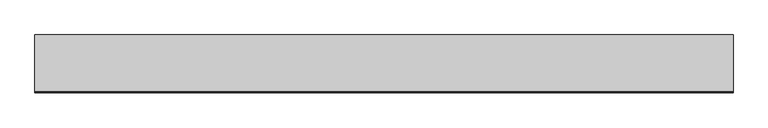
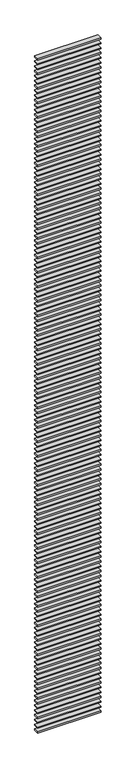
"""IFC4 building model written with IfcOpenShell, lengths in millimetres: proxy geometry, 水平ルーバー（Ｌ型） : ｈ50ｄ200＠200."""

from ifc_helpers import new_model, si_unit, frame, origin, place, context, project, spatial, polyline, outline, extrude, source, transform, mapped, element, save


def generic_models_84017759(model_context):
    return source(origin(), model_context, "Body", "SweptSolid", [
        extrude(outline(polyline([(-100.0, -200.0), (-100.0, 0.0), (2375.0, 0.0), (2375.0, -200.0), (-100.0, -200.0)])), frame((0.0, 0.0, 27775.0), z_axis=(0.0, 0.0, 1.0), x_axis=(1.0, 0.0, 0.0)), (0.0, 0.0, 1.0), 50.0),
        extrude(outline(polyline([(-100.0, -200.0), (-100.0, 0.0), (2375.0, 0.0), (2375.0, -200.0), (-100.0, -200.0)])), frame((0.0, 0.0, 27575.0), z_axis=(0.0, 0.0, 1.0), x_axis=(1.0, 0.0, 0.0)), (0.0, 0.0, 1.0), 50.0),
        extrude(outline(polyline([(-100.0, -200.0), (-100.0, 0.0), (2375.0, 0.0), (2375.0, -200.0), (-100.0, -200.0)])), frame((0.0, 0.0, 27375.0), z_axis=(0.0, 0.0, 1.0), x_axis=(1.0, 0.0, 0.0)), (0.0, 0.0, 1.0), 50.0),
        extrude(outline(polyline([(-100.0, -200.0), (-100.0, 0.0), (2375.0, 0.0), (2375.0, -200.0), (-100.0, -200.0)])), frame((0.0, 0.0, 27175.0), z_axis=(0.0, 0.0, 1.0), x_axis=(1.0, 0.0, 0.0)), (0.0, 0.0, 1.0), 50.0),
        extrude(outline(polyline([(-100.0, -200.0), (-100.0, 0.0), (2375.0, 0.0), (2375.0, -200.0), (-100.0, -200.0)])), frame((0.0, 0.0, 26975.0), z_axis=(0.0, 0.0, 1.0), x_axis=(1.0, 0.0, 0.0)), (0.0, 0.0, 1.0), 50.0),
        extrude(outline(polyline([(-100.0, -200.0), (-100.0, 0.0), (2375.0, 0.0), (2375.0, -200.0), (-100.0, -200.0)])), frame((0.0, 0.0, 26775.0), z_axis=(0.0, 0.0, 1.0), x_axis=(1.0, 0.0, 0.0)), (0.0, 0.0, 1.0), 50.0),
        extrude(outline(polyline([(-100.0, -200.0), (-100.0, 0.0), (2375.0, 0.0), (2375.0, -200.0), (-100.0, -200.0)])), frame((0.0, 0.0, 26575.0), z_axis=(0.0, 0.0, 1.0), x_axis=(1.0, 0.0, 0.0)), (0.0, 0.0, 1.0), 50.0),
        extrude(outline(polyline([(-100.0, -200.0), (-100.0, 0.0), (2375.0, 0.0), (2375.0, -200.0), (-100.0, -200.0)])), frame((0.0, 0.0, 26375.0), z_axis=(0.0, 0.0, 1.0), x_axis=(1.0, 0.0, 0.0)), (0.0, 0.0, 1.0), 50.0),
        extrude(outline(polyline([(-100.0, -200.0), (-100.0, 0.0), (2375.0, 0.0), (2375.0, -200.0), (-100.0, -200.0)])), frame((0.0, 0.0, 26175.0), z_axis=(0.0, 0.0, 1.0), x_axis=(1.0, 0.0, 0.0)), (0.0, 0.0, 1.0), 50.0),
        extrude(outline(polyline([(-100.0, -200.0), (-100.0, 0.0), (2375.0, 0.0), (2375.0, -200.0), (-100.0, -200.0)])), frame((0.0, 0.0, 25975.0), z_axis=(0.0, 0.0, 1.0), x_axis=(1.0, 0.0, 0.0)), (0.0, 0.0, 1.0), 50.0),
        extrude(outline(polyline([(-100.0, -200.0), (-100.0, 0.0), (2375.0, 0.0), (2375.0, -200.0), (-100.0, -200.0)])), frame((0.0, 0.0, 25775.0), z_axis=(0.0, 0.0, 1.0), x_axis=(1.0, 0.0, 0.0)), (0.0, 0.0, 1.0), 50.0),
        extrude(outline(polyline([(-100.0, -200.0), (-100.0, 0.0), (2375.0, 0.0), (2375.0, -200.0), (-100.0, -200.0)])), frame((0.0, 0.0, 25575.0), z_axis=(0.0, 0.0, 1.0), x_axis=(1.0, 0.0, 0.0)), (0.0, 0.0, 1.0), 50.0),
        extrude(outline(polyline([(-100.0, -200.0), (-100.0, 0.0), (2375.0, 0.0), (2375.0, -200.0), (-100.0, -200.0)])), frame((0.0, 0.0, 25375.0), z_axis=(0.0, 0.0, 1.0), x_axis=(1.0, 0.0, 0.0)), (0.0, 0.0, 1.0), 50.0),
        extrude(outline(polyline([(-100.0, -200.0), (-100.0, 0.0), (2375.0, 0.0), (2375.0, -200.0), (-100.0, -200.0)])), frame((0.0, 0.0, 25175.0), z_axis=(0.0, 0.0, 1.0), x_axis=(1.0, 0.0, 0.0)), (0.0, 0.0, 1.0), 50.0),
        extrude(outline(polyline([(-100.0, -200.0), (-100.0, 0.0), (2375.0, 0.0), (2375.0, -200.0), (-100.0, -200.0)])), frame((0.0, 0.0, 24975.0), z_axis=(0.0, 0.0, 1.0), x_axis=(1.0, 0.0, 0.0)), (0.0, 0.0, 1.0), 50.0),
        extrude(outline(polyline([(-100.0, -200.0), (-100.0, 0.0), (2375.0, 0.0), (2375.0, -200.0), (-100.0, -200.0)])), frame((0.0, 0.0, 24775.0), z_axis=(0.0, 0.0, 1.0), x_axis=(1.0, 0.0, 0.0)), (0.0, 0.0, 1.0), 50.0),
        extrude(outline(polyline([(-100.0, -200.0), (-100.0, 0.0), (2375.0, 0.0), (2375.0, -200.0), (-100.0, -200.0)])), frame((0.0, 0.0, 24575.0), z_axis=(0.0, 0.0, 1.0), x_axis=(1.0, 0.0, 0.0)), (0.0, 0.0, 1.0), 50.0),
        extrude(outline(polyline([(-100.0, -200.0), (-100.0, 0.0), (2375.0, 0.0), (2375.0, -200.0), (-100.0, -200.0)])), frame((0.0, 0.0, 24375.0), z_axis=(0.0, 0.0, 1.0), x_axis=(1.0, 0.0, 0.0)), (0.0, 0.0, 1.0), 50.0),
        extrude(outline(polyline([(-100.0, -200.0), (-100.0, 0.0), (2375.0, 0.0), (2375.0, -200.0), (-100.0, -200.0)])), frame((0.0, 0.0, 24175.0), z_axis=(0.0, 0.0, 1.0), x_axis=(1.0, 0.0, 0.0)), (0.0, 0.0, 1.0), 50.0),
        extrude(outline(polyline([(-100.0, -200.0), (-100.0, 0.0), (2375.0, 0.0), (2375.0, -200.0), (-100.0, -200.0)])), frame((0.0, 0.0, 23975.0), z_axis=(0.0, 0.0, 1.0), x_axis=(1.0, 0.0, 0.0)), (0.0, 0.0, 1.0), 50.0),
        extrude(outline(polyline([(-100.0, -200.0), (-100.0, 0.0), (2375.0, 0.0), (2375.0, -200.0), (-100.0, -200.0)])), frame((0.0, 0.0, 23775.0), z_axis=(0.0, 0.0, 1.0), x_axis=(1.0, 0.0, 0.0)), (0.0, 0.0, 1.0), 50.0),
        extrude(outline(polyline([(-100.0, -200.0), (-100.0, 0.0), (2375.0, 0.0), (2375.0, -200.0), (-100.0, -200.0)])), frame((0.0, 0.0, 23575.0), z_axis=(0.0, 0.0, 1.0), x_axis=(1.0, 0.0, 0.0)), (0.0, 0.0, 1.0), 50.0),
        extrude(outline(polyline([(-100.0, -200.0), (-100.0, 0.0), (2375.0, 0.0), (2375.0, -200.0), (-100.0, -200.0)])), frame((0.0, 0.0, 23375.0), z_axis=(0.0, 0.0, 1.0), x_axis=(1.0, 0.0, 0.0)), (0.0, 0.0, 1.0), 50.0),
        extrude(outline(polyline([(-100.0, -200.0), (-100.0, 0.0), (2375.0, 0.0), (2375.0, -200.0), (-100.0, -200.0)])), frame((0.0, 0.0, 23175.0), z_axis=(0.0, 0.0, 1.0), x_axis=(1.0, 0.0, 0.0)), (0.0, 0.0, 1.0), 50.0),
        extrude(outline(polyline([(-100.0, -200.0), (-100.0, 0.0), (2375.0, 0.0), (2375.0, -200.0), (-100.0, -200.0)])), frame((0.0, 0.0, 22975.0), z_axis=(0.0, 0.0, 1.0), x_axis=(1.0, 0.0, 0.0)), (0.0, 0.0, 1.0), 50.0),
        extrude(outline(polyline([(-100.0, -200.0), (-100.0, 0.0), (2375.0, 0.0), (2375.0, -200.0), (-100.0, -200.0)])), frame((0.0, 0.0, 22775.0), z_axis=(0.0, 0.0, 1.0), x_axis=(1.0, 0.0, 0.0)), (0.0, 0.0, 1.0), 50.0),
        extrude(outline(polyline([(-100.0, -200.0), (-100.0, 0.0), (2375.0, 0.0), (2375.0, -200.0), (-100.0, -200.0)])), frame((0.0, 0.0, 22575.0), z_axis=(0.0, 0.0, 1.0), x_axis=(1.0, 0.0, 0.0)), (0.0, 0.0, 1.0), 50.0),
        extrude(outline(polyline([(-100.0, -200.0), (-100.0, 0.0), (2375.0, 0.0), (2375.0, -200.0), (-100.0, -200.0)])), frame((0.0, 0.0, 22375.0), z_axis=(0.0, 0.0, 1.0), x_axis=(1.0, 0.0, 0.0)), (0.0, 0.0, 1.0), 50.0),
        extrude(outline(polyline([(-100.0, -200.0), (-100.0, 0.0), (2375.0, 0.0), (2375.0, -200.0), (-100.0, -200.0)])), frame((0.0, 0.0, 22175.0), z_axis=(0.0, 0.0, 1.0), x_axis=(1.0, 0.0, 0.0)), (0.0, 0.0, 1.0), 50.0),
        extrude(outline(polyline([(-100.0, -200.0), (-100.0, 0.0), (2375.0, 0.0), (2375.0, -200.0), (-100.0, -200.0)])), frame((0.0, 0.0, 21975.0), z_axis=(0.0, 0.0, 1.0), x_axis=(1.0, 0.0, 0.0)), (0.0, 0.0, 1.0), 50.0),
        extrude(outline(polyline([(-100.0, -200.0), (-100.0, 0.0), (2375.0, 0.0), (2375.0, -200.0), (-100.0, -200.0)])), frame((0.0, 0.0, 21775.0), z_axis=(0.0, 0.0, 1.0), x_axis=(1.0, 0.0, 0.0)), (0.0, 0.0, 1.0), 50.0),
        extrude(outline(polyline([(-100.0, -200.0), (-100.0, 0.0), (2375.0, 0.0), (2375.0, -200.0), (-100.0, -200.0)])), frame((0.0, 0.0, 21575.0), z_axis=(0.0, 0.0, 1.0), x_axis=(1.0, 0.0, 0.0)), (0.0, 0.0, 1.0), 50.0),
        extrude(outline(polyline([(-100.0, -200.0), (-100.0, 0.0), (2375.0, 0.0), (2375.0, -200.0), (-100.0, -200.0)])), frame((0.0, 0.0, 21375.0), z_axis=(0.0, 0.0, 1.0), x_axis=(1.0, 0.0, 0.0)), (0.0, 0.0, 1.0), 50.0),
        extrude(outline(polyline([(-100.0, -200.0), (-100.0, 0.0), (2375.0, 0.0), (2375.0, -200.0), (-100.0, -200.0)])), frame((0.0, 0.0, 21175.0), z_axis=(0.0, 0.0, 1.0), x_axis=(1.0, 0.0, 0.0)), (0.0, 0.0, 1.0), 50.0),
        extrude(outline(polyline([(-100.0, -200.0), (-100.0, 0.0), (2375.0, 0.0), (2375.0, -200.0), (-100.0, -200.0)])), frame((0.0, 0.0, 20975.0), z_axis=(0.0, 0.0, 1.0), x_axis=(1.0, 0.0, 0.0)), (0.0, 0.0, 1.0), 50.0),
        extrude(outline(polyline([(-100.0, -200.0), (-100.0, 0.0), (2375.0, 0.0), (2375.0, -200.0), (-100.0, -200.0)])), frame((0.0, 0.0, 20775.0), z_axis=(0.0, 0.0, 1.0), x_axis=(1.0, 0.0, 0.0)), (0.0, 0.0, 1.0), 50.0),
        extrude(outline(polyline([(-100.0, -200.0), (-100.0, 0.0), (2375.0, 0.0), (2375.0, -200.0), (-100.0, -200.0)])), frame((0.0, 0.0, 20575.0), z_axis=(0.0, 0.0, 1.0), x_axis=(1.0, 0.0, 0.0)), (0.0, 0.0, 1.0), 50.0),
        extrude(outline(polyline([(-100.0, -200.0), (-100.0, 0.0), (2375.0, 0.0), (2375.0, -200.0), (-100.0, -200.0)])), frame((0.0, 0.0, 20375.0), z_axis=(0.0, 0.0, 1.0), x_axis=(1.0, 0.0, 0.0)), (0.0, 0.0, 1.0), 50.0),
        extrude(outline(polyline([(-100.0, -200.0), (-100.0, 0.0), (2375.0, 0.0), (2375.0, -200.0), (-100.0, -200.0)])), frame((0.0, 0.0, 20175.0), z_axis=(0.0, 0.0, 1.0), x_axis=(1.0, 0.0, 0.0)), (0.0, 0.0, 1.0), 50.0),
        extrude(outline(polyline([(-100.0, -200.0), (-100.0, 0.0), (2375.0, 0.0), (2375.0, -200.0), (-100.0, -200.0)])), frame((0.0, 0.0, 19975.0), z_axis=(0.0, 0.0, 1.0), x_axis=(1.0, 0.0, 0.0)), (0.0, 0.0, 1.0), 50.0),
        extrude(outline(polyline([(-100.0, -200.0), (-100.0, 0.0), (2375.0, 0.0), (2375.0, -200.0), (-100.0, -200.0)])), frame((0.0, 0.0, 19775.0), z_axis=(0.0, 0.0, 1.0), x_axis=(1.0, 0.0, 0.0)), (0.0, 0.0, 1.0), 50.0),
        extrude(outline(polyline([(-100.0, -200.0), (-100.0, 0.0), (2375.0, 0.0), (2375.0, -200.0), (-100.0, -200.0)])), frame((0.0, 0.0, 19575.0), z_axis=(0.0, 0.0, 1.0), x_axis=(1.0, 0.0, 0.0)), (0.0, 0.0, 1.0), 50.0),
        extrude(outline(polyline([(-100.0, -200.0), (-100.0, 0.0), (2375.0, 0.0), (2375.0, -200.0), (-100.0, -200.0)])), frame((0.0, 0.0, 19375.0), z_axis=(0.0, 0.0, 1.0), x_axis=(1.0, 0.0, 0.0)), (0.0, 0.0, 1.0), 50.0),
        extrude(outline(polyline([(-100.0, -200.0), (-100.0, 0.0), (2375.0, 0.0), (2375.0, -200.0), (-100.0, -200.0)])), frame((0.0, 0.0, 19175.0), z_axis=(0.0, 0.0, 1.0), x_axis=(1.0, 0.0, 0.0)), (0.0, 0.0, 1.0), 50.0),
        extrude(outline(polyline([(-100.0, -200.0), (-100.0, 0.0), (2375.0, 0.0), (2375.0, -200.0), (-100.0, -200.0)])), frame((0.0, 0.0, 18975.0), z_axis=(0.0, 0.0, 1.0), x_axis=(1.0, 0.0, 0.0)), (0.0, 0.0, 1.0), 50.0),
        extrude(outline(polyline([(-100.0, -200.0), (-100.0, 0.0), (2375.0, 0.0), (2375.0, -200.0), (-100.0, -200.0)])), frame((0.0, 0.0, 18775.0), z_axis=(0.0, 0.0, 1.0), x_axis=(1.0, 0.0, 0.0)), (0.0, 0.0, 1.0), 50.0),
        extrude(outline(polyline([(-100.0, -200.0), (-100.0, 0.0), (2375.0, 0.0), (2375.0, -200.0), (-100.0, -200.0)])), frame((0.0, 0.0, 18575.0), z_axis=(0.0, 0.0, 1.0), x_axis=(1.0, 0.0, 0.0)), (0.0, 0.0, 1.0), 50.0),
        extrude(outline(polyline([(-100.0, -200.0), (-100.0, 0.0), (2375.0, 0.0), (2375.0, -200.0), (-100.0, -200.0)])), frame((0.0, 0.0, 18375.0), z_axis=(0.0, 0.0, 1.0), x_axis=(1.0, 0.0, 0.0)), (0.0, 0.0, 1.0), 50.0),
        extrude(outline(polyline([(-100.0, -200.0), (-100.0, 0.0), (2375.0, 0.0), (2375.0, -200.0), (-100.0, -200.0)])), frame((0.0, 0.0, 18175.0), z_axis=(0.0, 0.0, 1.0), x_axis=(1.0, 0.0, 0.0)), (0.0, 0.0, 1.0), 50.0),
        extrude(outline(polyline([(-100.0, -200.0), (-100.0, 0.0), (2375.0, 0.0), (2375.0, -200.0), (-100.0, -200.0)])), frame((0.0, 0.0, 17975.0), z_axis=(0.0, 0.0, 1.0), x_axis=(1.0, 0.0, 0.0)), (0.0, 0.0, 1.0), 50.0),
        extrude(outline(polyline([(-100.0, -200.0), (-100.0, 0.0), (2375.0, 0.0), (2375.0, -200.0), (-100.0, -200.0)])), frame((0.0, 0.0, 17775.0), z_axis=(0.0, 0.0, 1.0), x_axis=(1.0, 0.0, 0.0)), (0.0, 0.0, 1.0), 50.0),
        extrude(outline(polyline([(-100.0, -200.0), (-100.0, 0.0), (2375.0, 0.0), (2375.0, -200.0), (-100.0, -200.0)])), frame((0.0, 0.0, 17575.0), z_axis=(0.0, 0.0, 1.0), x_axis=(1.0, 0.0, 0.0)), (0.0, 0.0, 1.0), 50.0),
        extrude(outline(polyline([(-100.0, -200.0), (-100.0, 0.0), (2375.0, 0.0), (2375.0, -200.0), (-100.0, -200.0)])), frame((0.0, 0.0, 17375.0), z_axis=(0.0, 0.0, 1.0), x_axis=(1.0, 0.0, 0.0)), (0.0, 0.0, 1.0), 50.0),
        extrude(outline(polyline([(-100.0, -200.0), (-100.0, 0.0), (2375.0, 0.0), (2375.0, -200.0), (-100.0, -200.0)])), frame((0.0, 0.0, 17175.0), z_axis=(0.0, 0.0, 1.0), x_axis=(1.0, 0.0, 0.0)), (0.0, 0.0, 1.0), 50.0),
        extrude(outline(polyline([(-100.0, -200.0), (-100.0, 0.0), (2375.0, 0.0), (2375.0, -200.0), (-100.0, -200.0)])), frame((0.0, 0.0, 16975.0), z_axis=(0.0, 0.0, 1.0), x_axis=(1.0, 0.0, 0.0)), (0.0, 0.0, 1.0), 50.0),
        extrude(outline(polyline([(-100.0, -200.0), (-100.0, 0.0), (2375.0, 0.0), (2375.0, -200.0), (-100.0, -200.0)])), frame((0.0, 0.0, 16775.0), z_axis=(0.0, 0.0, 1.0), x_axis=(1.0, 0.0, 0.0)), (0.0, 0.0, 1.0), 50.0),
        extrude(outline(polyline([(-100.0, -200.0), (-100.0, 0.0), (2375.0, 0.0), (2375.0, -200.0), (-100.0, -200.0)])), frame((0.0, 0.0, 16575.0), z_axis=(0.0, 0.0, 1.0), x_axis=(1.0, 0.0, 0.0)), (0.0, 0.0, 1.0), 50.0),
        extrude(outline(polyline([(-100.0, -200.0), (-100.0, 0.0), (2375.0, 0.0), (2375.0, -200.0), (-100.0, -200.0)])), frame((0.0, 0.0, 16375.0), z_axis=(0.0, 0.0, 1.0), x_axis=(1.0, 0.0, 0.0)), (0.0, 0.0, 1.0), 50.0),
        extrude(outline(polyline([(-100.0, -200.0), (-100.0, 0.0), (2375.0, 0.0), (2375.0, -200.0), (-100.0, -200.0)])), frame((0.0, 0.0, 16175.0), z_axis=(0.0, 0.0, 1.0), x_axis=(1.0, 0.0, 0.0)), (0.0, 0.0, 1.0), 50.0),
        extrude(outline(polyline([(-100.0, -200.0), (-100.0, 0.0), (2375.0, 0.0), (2375.0, -200.0), (-100.0, -200.0)])), frame((0.0, 0.0, 15975.0), z_axis=(0.0, 0.0, 1.0), x_axis=(1.0, 0.0, 0.0)), (0.0, 0.0, 1.0), 50.0),
        extrude(outline(polyline([(-100.0, -200.0), (-100.0, 0.0), (2375.0, 0.0), (2375.0, -200.0), (-100.0, -200.0)])), frame((0.0, 0.0, 15775.0), z_axis=(0.0, 0.0, 1.0), x_axis=(1.0, 0.0, 0.0)), (0.0, 0.0, 1.0), 50.0),
        extrude(outline(polyline([(-100.0, -200.0), (-100.0, 0.0), (2375.0, 0.0), (2375.0, -200.0), (-100.0, -200.0)])), frame((0.0, 0.0, 15575.0), z_axis=(0.0, 0.0, 1.0), x_axis=(1.0, 0.0, 0.0)), (0.0, 0.0, 1.0), 50.0),
        extrude(outline(polyline([(-100.0, -200.0), (-100.0, 0.0), (2375.0, 0.0), (2375.0, -200.0), (-100.0, -200.0)])), frame((0.0, 0.0, 15375.0), z_axis=(0.0, 0.0, 1.0), x_axis=(1.0, 0.0, 0.0)), (0.0, 0.0, 1.0), 50.0),
        extrude(outline(polyline([(-100.0, -200.0), (-100.0, 0.0), (2375.0, 0.0), (2375.0, -200.0), (-100.0, -200.0)])), frame((0.0, 0.0, 15175.0), z_axis=(0.0, 0.0, 1.0), x_axis=(1.0, 0.0, 0.0)), (0.0, 0.0, 1.0), 50.0),
        extrude(outline(polyline([(-100.0, -200.0), (-100.0, 0.0), (2375.0, 0.0), (2375.0, -200.0), (-100.0, -200.0)])), frame((0.0, 0.0, 14975.0), z_axis=(0.0, 0.0, 1.0), x_axis=(1.0, 0.0, 0.0)), (0.0, 0.0, 1.0), 50.0),
        extrude(outline(polyline([(-100.0, -200.0), (-100.0, 0.0), (2375.0, 0.0), (2375.0, -200.0), (-100.0, -200.0)])), frame((0.0, 0.0, 14775.0), z_axis=(0.0, 0.0, 1.0), x_axis=(1.0, 0.0, 0.0)), (0.0, 0.0, 1.0), 50.0),
        extrude(outline(polyline([(-100.0, -200.0), (-100.0, 0.0), (2375.0, 0.0), (2375.0, -200.0), (-100.0, -200.0)])), frame((0.0, 0.0, 14575.0), z_axis=(0.0, 0.0, 1.0), x_axis=(1.0, 0.0, 0.0)), (0.0, 0.0, 1.0), 50.0),
        extrude(outline(polyline([(-100.0, -200.0), (-100.0, 0.0), (2375.0, 0.0), (2375.0, -200.0), (-100.0, -200.0)])), frame((0.0, 0.0, 14375.0), z_axis=(0.0, 0.0, 1.0), x_axis=(1.0, 0.0, 0.0)), (0.0, 0.0, 1.0), 50.0),
        extrude(outline(polyline([(-100.0, -200.0), (-100.0, 0.0), (2375.0, 0.0), (2375.0, -200.0), (-100.0, -200.0)])), frame((0.0, 0.0, 14175.0), z_axis=(0.0, 0.0, 1.0), x_axis=(1.0, 0.0, 0.0)), (0.0, 0.0, 1.0), 50.0),
        extrude(outline(polyline([(-100.0, -200.0), (-100.0, 0.0), (2375.0, 0.0), (2375.0, -200.0), (-100.0, -200.0)])), frame((0.0, 0.0, 13975.0), z_axis=(0.0, 0.0, 1.0), x_axis=(1.0, 0.0, 0.0)), (0.0, 0.0, 1.0), 50.0),
        extrude(outline(polyline([(-100.0, -200.0), (-100.0, 0.0), (2375.0, 0.0), (2375.0, -200.0), (-100.0, -200.0)])), frame((0.0, 0.0, 13775.0), z_axis=(0.0, 0.0, 1.0), x_axis=(1.0, 0.0, 0.0)), (0.0, 0.0, 1.0), 50.0),
        extrude(outline(polyline([(-100.0, -200.0), (-100.0, 0.0), (2375.0, 0.0), (2375.0, -200.0), (-100.0, -200.0)])), frame((0.0, 0.0, 13575.0), z_axis=(0.0, 0.0, 1.0), x_axis=(1.0, 0.0, 0.0)), (0.0, 0.0, 1.0), 50.0),
        extrude(outline(polyline([(-100.0, -200.0), (-100.0, 0.0), (2375.0, 0.0), (2375.0, -200.0), (-100.0, -200.0)])), frame((0.0, 0.0, 13375.0), z_axis=(0.0, 0.0, 1.0), x_axis=(1.0, 0.0, 0.0)), (0.0, 0.0, 1.0), 50.0),
        extrude(outline(polyline([(-100.0, -200.0), (-100.0, 0.0), (2375.0, 0.0), (2375.0, -200.0), (-100.0, -200.0)])), frame((0.0, 0.0, 13175.0), z_axis=(0.0, 0.0, 1.0), x_axis=(1.0, 0.0, 0.0)), (0.0, 0.0, 1.0), 50.0),
        extrude(outline(polyline([(-100.0, -200.0), (-100.0, 0.0), (2375.0, 0.0), (2375.0, -200.0), (-100.0, -200.0)])), frame((0.0, 0.0, 12975.0), z_axis=(0.0, 0.0, 1.0), x_axis=(1.0, 0.0, 0.0)), (0.0, 0.0, 1.0), 50.0),
        extrude(outline(polyline([(-100.0, -200.0), (-100.0, 0.0), (2375.0, 0.0), (2375.0, -200.0), (-100.0, -200.0)])), frame((0.0, 0.0, 12775.0), z_axis=(0.0, 0.0, 1.0), x_axis=(1.0, 0.0, 0.0)), (0.0, 0.0, 1.0), 50.0),
        extrude(outline(polyline([(-100.0, -200.0), (-100.0, 0.0), (2375.0, 0.0), (2375.0, -200.0), (-100.0, -200.0)])), frame((0.0, 0.0, 12575.0), z_axis=(0.0, 0.0, 1.0), x_axis=(1.0, 0.0, 0.0)), (0.0, 0.0, 1.0), 50.0),
        extrude(outline(polyline([(-100.0, -200.0), (-100.0, 0.0), (2375.0, 0.0), (2375.0, -200.0), (-100.0, -200.0)])), frame((0.0, 0.0, 12375.0), z_axis=(0.0, 0.0, 1.0), x_axis=(1.0, 0.0, 0.0)), (0.0, 0.0, 1.0), 50.0),
        extrude(outline(polyline([(-100.0, -200.0), (-100.0, 0.0), (2375.0, 0.0), (2375.0, -200.0), (-100.0, -200.0)])), frame((0.0, 0.0, 12175.0), z_axis=(0.0, 0.0, 1.0), x_axis=(1.0, 0.0, 0.0)), (0.0, 0.0, 1.0), 50.0),
        extrude(outline(polyline([(-100.0, -200.0), (-100.0, 0.0), (2375.0, 0.0), (2375.0, -200.0), (-100.0, -200.0)])), frame((0.0, 0.0, 11975.0), z_axis=(0.0, 0.0, 1.0), x_axis=(1.0, 0.0, 0.0)), (0.0, 0.0, 1.0), 50.0),
        extrude(outline(polyline([(-100.0, -200.0), (-100.0, 0.0), (2375.0, 0.0), (2375.0, -200.0), (-100.0, -200.0)])), frame((0.0, 0.0, 11775.0), z_axis=(0.0, 0.0, 1.0), x_axis=(1.0, 0.0, 0.0)), (0.0, 0.0, 1.0), 50.0),
        extrude(outline(polyline([(-100.0, -200.0), (-100.0, 0.0), (2375.0, 0.0), (2375.0, -200.0), (-100.0, -200.0)])), frame((0.0, 0.0, 11575.0), z_axis=(0.0, 0.0, 1.0), x_axis=(1.0, 0.0, 0.0)), (0.0, 0.0, 1.0), 50.0),
        extrude(outline(polyline([(-100.0, -200.0), (-100.0, 0.0), (2375.0, 0.0), (2375.0, -200.0), (-100.0, -200.0)])), frame((0.0, 0.0, 11375.0), z_axis=(0.0, 0.0, 1.0), x_axis=(1.0, 0.0, 0.0)), (0.0, 0.0, 1.0), 50.0),
        extrude(outline(polyline([(-100.0, -200.0), (-100.0, 0.0), (2375.0, 0.0), (2375.0, -200.0), (-100.0, -200.0)])), frame((0.0, 0.0, 11175.0), z_axis=(0.0, 0.0, 1.0), x_axis=(1.0, 0.0, 0.0)), (0.0, 0.0, 1.0), 50.0),
        extrude(outline(polyline([(-100.0, -200.0), (-100.0, 0.0), (2375.0, 0.0), (2375.0, -200.0), (-100.0, -200.0)])), frame((0.0, 0.0, 10975.0), z_axis=(0.0, 0.0, 1.0), x_axis=(1.0, 0.0, 0.0)), (0.0, 0.0, 1.0), 50.0),
        extrude(outline(polyline([(-100.0, -200.0), (-100.0, 0.0), (2375.0, 0.0), (2375.0, -200.0), (-100.0, -200.0)])), frame((0.0, 0.0, 10775.0), z_axis=(0.0, 0.0, 1.0), x_axis=(1.0, 0.0, 0.0)), (0.0, 0.0, 1.0), 50.0),
        extrude(outline(polyline([(-100.0, -200.0), (-100.0, 0.0), (2375.0, 0.0), (2375.0, -200.0), (-100.0, -200.0)])), frame((0.0, 0.0, 10575.0), z_axis=(0.0, 0.0, 1.0), x_axis=(1.0, 0.0, 0.0)), (0.0, 0.0, 1.0), 50.0),
        extrude(outline(polyline([(-100.0, -200.0), (-100.0, 0.0), (2375.0, 0.0), (2375.0, -200.0), (-100.0, -200.0)])), frame((0.0, 0.0, 10375.0), z_axis=(0.0, 0.0, 1.0), x_axis=(1.0, 0.0, 0.0)), (0.0, 0.0, 1.0), 50.0),
        extrude(outline(polyline([(-100.0, -200.0), (-100.0, 0.0), (2375.0, 0.0), (2375.0, -200.0), (-100.0, -200.0)])), frame((0.0, 0.0, 10175.0), z_axis=(0.0, 0.0, 1.0), x_axis=(1.0, 0.0, 0.0)), (0.0, 0.0, 1.0), 50.0),
        extrude(outline(polyline([(-100.0, -200.0), (-100.0, 0.0), (2375.0, 0.0), (2375.0, -200.0), (-100.0, -200.0)])), frame((0.0, 0.0, 9975.0), z_axis=(0.0, 0.0, 1.0), x_axis=(1.0, 0.0, 0.0)), (0.0, 0.0, 1.0), 50.0),
        extrude(outline(polyline([(-100.0, -200.0), (-100.0, 0.0), (2375.0, 0.0), (2375.0, -200.0), (-100.0, -200.0)])), frame((0.0, 0.0, 9775.0), z_axis=(0.0, 0.0, 1.0), x_axis=(1.0, 0.0, 0.0)), (0.0, 0.0, 1.0), 50.0),
        extrude(outline(polyline([(-100.0, -200.0), (-100.0, 0.0), (2375.0, 0.0), (2375.0, -200.0), (-100.0, -200.0)])), frame((0.0, 0.0, 9575.0), z_axis=(0.0, 0.0, 1.0), x_axis=(1.0, 0.0, 0.0)), (0.0, 0.0, 1.0), 50.0),
        extrude(outline(polyline([(-100.0, -200.0), (-100.0, 0.0), (2375.0, 0.0), (2375.0, -200.0), (-100.0, -200.0)])), frame((0.0, 0.0, 9375.0), z_axis=(0.0, 0.0, 1.0), x_axis=(1.0, 0.0, 0.0)), (0.0, 0.0, 1.0), 50.0),
        extrude(outline(polyline([(-100.0, -200.0), (-100.0, 0.0), (2375.0, 0.0), (2375.0, -200.0), (-100.0, -200.0)])), frame((0.0, 0.0, 9175.0), z_axis=(0.0, 0.0, 1.0), x_axis=(1.0, 0.0, 0.0)), (0.0, 0.0, 1.0), 50.0),
        extrude(outline(polyline([(-100.0, -200.0), (-100.0, 0.0), (2375.0, 0.0), (2375.0, -200.0), (-100.0, -200.0)])), frame((0.0, 0.0, 8975.0), z_axis=(0.0, 0.0, 1.0), x_axis=(1.0, 0.0, 0.0)), (0.0, 0.0, 1.0), 50.0),
        extrude(outline(polyline([(-100.0, -200.0), (-100.0, 0.0), (2375.0, 0.0), (2375.0, -200.0), (-100.0, -200.0)])), frame((0.0, 0.0, 8775.0), z_axis=(0.0, 0.0, 1.0), x_axis=(1.0, 0.0, 0.0)), (0.0, 0.0, 1.0), 50.0),
        extrude(outline(polyline([(-100.0, -200.0), (-100.0, 0.0), (2375.0, 0.0), (2375.0, -200.0), (-100.0, -200.0)])), frame((0.0, 0.0, 8575.0), z_axis=(0.0, 0.0, 1.0), x_axis=(1.0, 0.0, 0.0)), (0.0, 0.0, 1.0), 50.0),
        extrude(outline(polyline([(-100.0, -200.0), (-100.0, 0.0), (2375.0, 0.0), (2375.0, -200.0), (-100.0, -200.0)])), frame((0.0, 0.0, 8375.0), z_axis=(0.0, 0.0, 1.0), x_axis=(1.0, 0.0, 0.0)), (0.0, 0.0, 1.0), 50.0),
        extrude(outline(polyline([(-100.0, -200.0), (-100.0, 0.0), (2375.0, 0.0), (2375.0, -200.0), (-100.0, -200.0)])), frame((0.0, 0.0, 8175.0), z_axis=(0.0, 0.0, 1.0), x_axis=(1.0, 0.0, 0.0)), (0.0, 0.0, 1.0), 50.0),
        extrude(outline(polyline([(-100.0, -200.0), (-100.0, 0.0), (2375.0, 0.0), (2375.0, -200.0), (-100.0, -200.0)])), frame((0.0, 0.0, 7975.0), z_axis=(0.0, 0.0, 1.0), x_axis=(1.0, 0.0, 0.0)), (0.0, 0.0, 1.0), 50.0),
        extrude(outline(polyline([(-100.0, -200.0), (-100.0, 0.0), (2375.0, 0.0), (2375.0, -200.0), (-100.0, -200.0)])), frame((0.0, 0.0, 7775.0), z_axis=(0.0, 0.0, 1.0), x_axis=(1.0, 0.0, 0.0)), (0.0, 0.0, 1.0), 50.0),
        extrude(outline(polyline([(-100.0, -200.0), (-100.0, 0.0), (2375.0, 0.0), (2375.0, -200.0), (-100.0, -200.0)])), frame((0.0, 0.0, 7575.0), z_axis=(0.0, 0.0, 1.0), x_axis=(1.0, 0.0, 0.0)), (0.0, 0.0, 1.0), 50.0),
        extrude(outline(polyline([(-100.0, -200.0), (-100.0, 0.0), (2375.0, 0.0), (2375.0, -200.0), (-100.0, -200.0)])), frame((0.0, 0.0, 7375.0), z_axis=(0.0, 0.0, 1.0), x_axis=(1.0, 0.0, 0.0)), (0.0, 0.0, 1.0), 50.0),
        extrude(outline(polyline([(-100.0, -200.0), (-100.0, 0.0), (2375.0, 0.0), (2375.0, -200.0), (-100.0, -200.0)])), frame((0.0, 0.0, 7175.0), z_axis=(0.0, 0.0, 1.0), x_axis=(1.0, 0.0, 0.0)), (0.0, 0.0, 1.0), 50.0),
        extrude(outline(polyline([(-100.0, -200.0), (-100.0, 0.0), (2375.0, 0.0), (2375.0, -200.0), (-100.0, -200.0)])), frame((0.0, 0.0, 6975.0), z_axis=(0.0, 0.0, 1.0), x_axis=(1.0, 0.0, 0.0)), (0.0, 0.0, 1.0), 50.0),
        extrude(outline(polyline([(-100.0, -200.0), (-100.0, 0.0), (2375.0, 0.0), (2375.0, -200.0), (-100.0, -200.0)])), frame((0.0, 0.0, 6775.0), z_axis=(0.0, 0.0, 1.0), x_axis=(1.0, 0.0, 0.0)), (0.0, 0.0, 1.0), 50.0),
        extrude(outline(polyline([(-100.0, -200.0), (-100.0, 0.0), (2375.0, 0.0), (2375.0, -200.0), (-100.0, -200.0)])), frame((0.0, 0.0, 6575.0), z_axis=(0.0, 0.0, 1.0), x_axis=(1.0, 0.0, 0.0)), (0.0, 0.0, 1.0), 50.0),
        extrude(outline(polyline([(-100.0, -200.0), (-100.0, 0.0), (2375.0, 0.0), (2375.0, -200.0), (-100.0, -200.0)])), frame((0.0, 0.0, 6375.0), z_axis=(0.0, 0.0, 1.0), x_axis=(1.0, 0.0, 0.0)), (0.0, 0.0, 1.0), 50.0),
        extrude(outline(polyline([(-100.0, -200.0), (-100.0, 0.0), (2375.0, 0.0), (2375.0, -200.0), (-100.0, -200.0)])), frame((0.0, 0.0, 6175.0), z_axis=(0.0, 0.0, 1.0), x_axis=(1.0, 0.0, 0.0)), (0.0, 0.0, 1.0), 50.0),
        extrude(outline(polyline([(-100.0, -200.0), (-100.0, 0.0), (2375.0, 0.0), (2375.0, -200.0), (-100.0, -200.0)])), frame((0.0, 0.0, 5975.0), z_axis=(0.0, 0.0, 1.0), x_axis=(1.0, 0.0, 0.0)), (0.0, 0.0, 1.0), 50.0),
        extrude(outline(polyline([(-100.0, -200.0), (-100.0, 0.0), (2375.0, 0.0), (2375.0, -200.0), (-100.0, -200.0)])), frame((0.0, 0.0, 5775.0), z_axis=(0.0, 0.0, 1.0), x_axis=(1.0, 0.0, 0.0)), (0.0, 0.0, 1.0), 50.0),
        extrude(outline(polyline([(-100.0, -200.0), (-100.0, 0.0), (2375.0, 0.0), (2375.0, -200.0), (-100.0, -200.0)])), frame((0.0, 0.0, 5575.0), z_axis=(0.0, 0.0, 1.0), x_axis=(1.0, 0.0, 0.0)), (0.0, 0.0, 1.0), 50.0),
        extrude(outline(polyline([(-100.0, -200.0), (-100.0, 0.0), (2375.0, 0.0), (2375.0, -200.0), (-100.0, -200.0)])), frame((0.0, 0.0, 5375.0), z_axis=(0.0, 0.0, 1.0), x_axis=(1.0, 0.0, 0.0)), (0.0, 0.0, 1.0), 50.0),
        extrude(outline(polyline([(-100.0, -200.0), (-100.0, 0.0), (2375.0, 0.0), (2375.0, -200.0), (-100.0, -200.0)])), frame((0.0, 0.0, 5175.0), z_axis=(0.0, 0.0, 1.0), x_axis=(1.0, 0.0, 0.0)), (0.0, 0.0, 1.0), 50.0),
        extrude(outline(polyline([(-100.0, -200.0), (-100.0, 0.0), (2375.0, 0.0), (2375.0, -200.0), (-100.0, -200.0)])), frame((0.0, 0.0, 4975.0), z_axis=(0.0, 0.0, 1.0), x_axis=(1.0, 0.0, 0.0)), (0.0, 0.0, 1.0), 50.0),
        extrude(outline(polyline([(-100.0, -200.0), (-100.0, 0.0), (2375.0, 0.0), (2375.0, -200.0), (-100.0, -200.0)])), frame((0.0, 0.0, 4775.0), z_axis=(0.0, 0.0, 1.0), x_axis=(1.0, 0.0, 0.0)), (0.0, 0.0, 1.0), 50.0),
        extrude(outline(polyline([(-100.0, -200.0), (-100.0, 0.0), (2375.0, 0.0), (2375.0, -200.0), (-100.0, -200.0)])), frame((0.0, 0.0, 4575.0), z_axis=(0.0, 0.0, 1.0), x_axis=(1.0, 0.0, 0.0)), (0.0, 0.0, 1.0), 50.0),
        extrude(outline(polyline([(-100.0, -200.0), (-100.0, 0.0), (2375.0, 0.0), (2375.0, -200.0), (-100.0, -200.0)])), frame((0.0, 0.0, 4375.0), z_axis=(0.0, 0.0, 1.0), x_axis=(1.0, 0.0, 0.0)), (0.0, 0.0, 1.0), 50.0),
        extrude(outline(polyline([(-100.0, -200.0), (-100.0, 0.0), (2375.0, 0.0), (2375.0, -200.0), (-100.0, -200.0)])), frame((0.0, 0.0, 4175.0), z_axis=(0.0, 0.0, 1.0), x_axis=(1.0, 0.0, 0.0)), (0.0, 0.0, 1.0), 50.0),
        extrude(outline(polyline([(-100.0, -200.0), (-100.0, 0.0), (2375.0, 0.0), (2375.0, -200.0), (-100.0, -200.0)])), frame((0.0, 0.0, 3975.0), z_axis=(0.0, 0.0, 1.0), x_axis=(1.0, 0.0, 0.0)), (0.0, 0.0, 1.0), 50.0),
        extrude(outline(polyline([(-100.0, -200.0), (-100.0, 0.0), (2375.0, 0.0), (2375.0, -200.0), (-100.0, -200.0)])), frame((0.0, 0.0, 3775.0), z_axis=(0.0, 0.0, 1.0), x_axis=(1.0, 0.0, 0.0)), (0.0, 0.0, 1.0), 50.0),
        extrude(outline(polyline([(-100.0, -200.0), (-100.0, 0.0), (2375.0, 0.0), (2375.0, -200.0), (-100.0, -200.0)])), frame((0.0, 0.0, 3575.0), z_axis=(0.0, 0.0, 1.0), x_axis=(1.0, 0.0, 0.0)), (0.0, 0.0, 1.0), 50.0),
        extrude(outline(polyline([(-100.0, -200.0), (-100.0, 0.0), (2375.0, 0.0), (2375.0, -200.0), (-100.0, -200.0)])), frame((0.0, 0.0, 3375.0), z_axis=(0.0, 0.0, 1.0), x_axis=(1.0, 0.0, 0.0)), (0.0, 0.0, 1.0), 50.0),
        extrude(outline(polyline([(-100.0, -200.0), (-100.0, 0.0), (2375.0, 0.0), (2375.0, -200.0), (-100.0, -200.0)])), frame((0.0, 0.0, 3175.0), z_axis=(0.0, 0.0, 1.0), x_axis=(1.0, 0.0, 0.0)), (0.0, 0.0, 1.0), 50.0),
        extrude(outline(polyline([(-100.0, -200.0), (-100.0, 0.0), (2375.0, 0.0), (2375.0, -200.0), (-100.0, -200.0)])), frame((0.0, 0.0, 2975.0), z_axis=(0.0, 0.0, 1.0), x_axis=(1.0, 0.0, 0.0)), (0.0, 0.0, 1.0), 50.0),
        extrude(outline(polyline([(-100.0, -200.0), (-100.0, 0.0), (2375.0, 0.0), (2375.0, -200.0), (-100.0, -200.0)])), frame((0.0, 0.0, 2775.0), z_axis=(0.0, 0.0, 1.0), x_axis=(1.0, 0.0, 0.0)), (0.0, 0.0, 1.0), 50.0),
        extrude(outline(polyline([(-100.0, -200.0), (-100.0, 0.0), (2375.0, 0.0), (2375.0, -200.0), (-100.0, -200.0)])), frame((0.0, 0.0, 2575.0), z_axis=(0.0, 0.0, 1.0), x_axis=(1.0, 0.0, 0.0)), (0.0, 0.0, 1.0), 50.0),
        extrude(outline(polyline([(-100.0, -200.0), (-100.0, 0.0), (2375.0, 0.0), (2375.0, -200.0), (-100.0, -200.0)])), frame((0.0, 0.0, 2375.0), z_axis=(0.0, 0.0, 1.0), x_axis=(1.0, 0.0, 0.0)), (0.0, 0.0, 1.0), 50.0),
        extrude(outline(polyline([(-100.0, -200.0), (-100.0, 0.0), (2375.0, 0.0), (2375.0, -200.0), (-100.0, -200.0)])), frame((0.0, 0.0, 2175.0), z_axis=(0.0, 0.0, 1.0), x_axis=(1.0, 0.0, 0.0)), (0.0, 0.0, 1.0), 50.0),
        extrude(outline(polyline([(-100.0, -200.0), (-100.0, 0.0), (2375.0, 0.0), (2375.0, -200.0), (-100.0, -200.0)])), frame((0.0, 0.0, 1975.0), z_axis=(0.0, 0.0, 1.0), x_axis=(1.0, 0.0, 0.0)), (0.0, 0.0, 1.0), 50.0),
        extrude(outline(polyline([(-100.0, -200.0), (-100.0, 0.0), (2375.0, 0.0), (2375.0, -200.0), (-100.0, -200.0)])), frame((0.0, 0.0, 1775.0), z_axis=(0.0, 0.0, 1.0), x_axis=(1.0, 0.0, 0.0)), (0.0, 0.0, 1.0), 50.0),
        extrude(outline(polyline([(-100.0, -200.0), (-100.0, 0.0), (2375.0, 0.0), (2375.0, -200.0), (-100.0, -200.0)])), frame((0.0, 0.0, 1575.0), z_axis=(0.0, 0.0, 1.0), x_axis=(1.0, 0.0, 0.0)), (0.0, 0.0, 1.0), 50.0),
        extrude(outline(polyline([(-100.0, -200.0), (-100.0, 0.0), (2375.0, 0.0), (2375.0, -200.0), (-100.0, -200.0)])), frame((0.0, 0.0, 1375.0), z_axis=(0.0, 0.0, 1.0), x_axis=(1.0, 0.0, 0.0)), (0.0, 0.0, 1.0), 50.0),
        extrude(outline(polyline([(-100.0, -200.0), (-100.0, 0.0), (2375.0, 0.0), (2375.0, -200.0), (-100.0, -200.0)])), frame((0.0, 0.0, 1175.0), z_axis=(0.0, 0.0, 1.0), x_axis=(1.0, 0.0, 0.0)), (0.0, 0.0, 1.0), 50.0),
        extrude(outline(polyline([(-100.0, -200.0), (-100.0, 0.0), (2375.0, 0.0), (2375.0, -200.0), (-100.0, -200.0)])), frame((0.0, 0.0, 975.0), z_axis=(0.0, 0.0, 1.0), x_axis=(1.0, 0.0, 0.0)), (0.0, 0.0, 1.0), 50.0),
        extrude(outline(polyline([(-100.0, -200.0), (-100.0, 0.0), (2375.0, 0.0), (2375.0, -200.0), (-100.0, -200.0)])), frame((0.0, 0.0, 775.0), z_axis=(0.0, 0.0, 1.0), x_axis=(1.0, 0.0, 0.0)), (0.0, 0.0, 1.0), 50.0),
        extrude(outline(polyline([(-100.0, -200.0), (-100.0, 0.0), (2375.0, 0.0), (2375.0, -200.0), (-100.0, -200.0)])), frame((0.0, 0.0, 575.0), z_axis=(0.0, 0.0, 1.0), x_axis=(1.0, 0.0, 0.0)), (0.0, 0.0, 1.0), 50.0),
        extrude(outline(polyline([(-100.0, -200.0), (-100.0, 0.0), (2375.0, 0.0), (2375.0, -200.0), (-100.0, -200.0)])), frame((0.0, 0.0, 375.0), z_axis=(0.0, 0.0, 1.0), x_axis=(1.0, 0.0, 0.0)), (0.0, 0.0, 1.0), 50.0),
        extrude(outline(polyline([(-100.0, -200.0), (-100.0, 0.0), (2375.0, 0.0), (2375.0, -200.0), (-100.0, -200.0)])), frame((0.0, 0.0, 175.0), z_axis=(0.0, 0.0, 1.0), x_axis=(1.0, 0.0, 0.0)), (0.0, 0.0, 1.0), 50.0),
        extrude(outline(polyline([(-100.0, -200.0), (-100.0, 0.0), (2375.0, 0.0), (2375.0, -200.0), (-100.0, -200.0)])), frame((0.0, 0.0, -25.0), z_axis=(0.0, 0.0, 1.0), x_axis=(1.0, 0.0, 0.0)), (0.0, 0.0, 1.0), 50.0),
    ])


if __name__ == "__main__":
    model = new_model("IFC4")
    model_context = context("Model", 3, world=origin())
    ifc_project = project(units=[si_unit("LENGTHUNIT", "METRE", prefix="MILLI")], contexts=[model_context])
    site = spatial("IfcSite", under=ifc_project)
    building = spatial("IfcBuilding", under=site)
    placement = place(None, origin())
    generic_models_shape = generic_models_84017759(model_context)
    element("IfcBuildingElementProxy", 1, Name="水平ルーバー（Ｌ型） : ｈ50ｄ200＠200", ObjectType="水平ルーバー（Ｌ型） : ｈ50ｄ200＠200", at=placement, inside=building, context=model_context, shape_type="MappedRepresentation", body=[
        mapped(generic_models_shape, transform((0.0, 0.0, 0.0), x_axis=(1.0, 0.0, 0.0), y_axis=(0.0, 1.0, 0.0), z_axis=(0.0, 0.0, 1.0))),
    ])
    save(model, "model.ifc")
